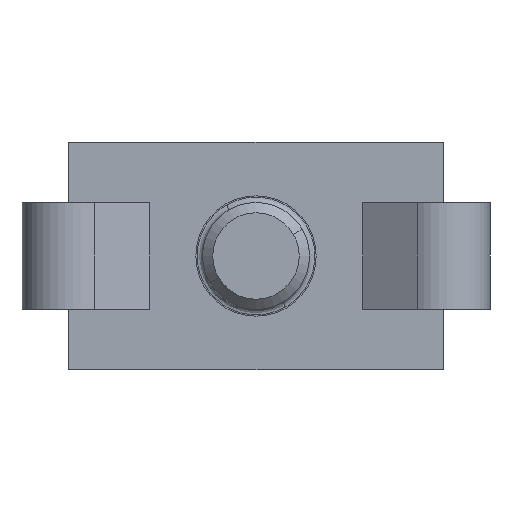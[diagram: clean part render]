
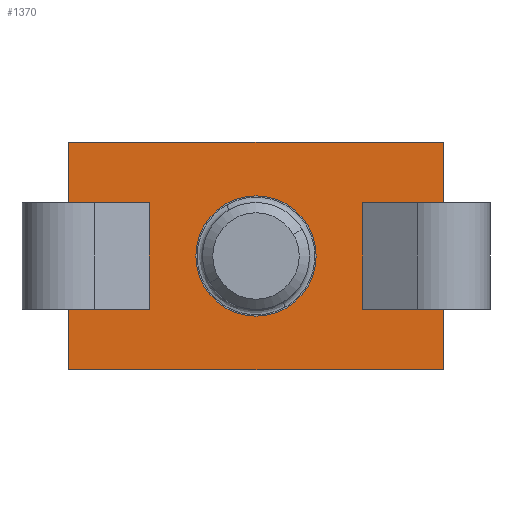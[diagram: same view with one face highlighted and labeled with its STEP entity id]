
A CAD part, left-side view. The second image highlights one B-rep face of the part: STEP entity #1370.
In plain terms, the highlighted planar face has unit normal (-1, 0, 0).
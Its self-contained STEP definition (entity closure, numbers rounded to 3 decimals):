
#43 = DIRECTION ( 'NONE',  ( 0., -1., 0. ) ) ;
#58 = FACE_BOUND ( 'NONE', #2455, .T. ) ;
#61 = FACE_OUTER_BOUND ( 'NONE', #322, .T. ) ;
#89 = ORIENTED_EDGE ( 'NONE', *, *, #2156, .F. ) ;
#113 = CARTESIAN_POINT ( 'NONE',  ( 4.5, -14., 39. ) ) ;
#142 = LINE ( 'NONE', #329, #2096 ) ;
#143 = CARTESIAN_POINT ( 'NONE',  ( 4.5, -14., 26.5 ) ) ;
#180 = VECTOR ( 'NONE', #897, 1000. ) ;
#187 = CARTESIAN_POINT ( 'NONE',  ( 4.5, 0., 43.5 ) ) ;
#310 = DIRECTION ( 'NONE',  ( 0., 0., 1. ) ) ;
#322 = EDGE_LOOP ( 'NONE', ( #516, #1138, #869, #1974, #1809, #2236, #89, #2377 ) ) ;
#329 = CARTESIAN_POINT ( 'NONE',  ( 4.5, 14., 35. ) ) ;
#427 = LINE ( 'NONE', #2490, #1530 ) ;
#437 = VECTOR ( 'NONE', #43, 1000. ) ;
#516 = ORIENTED_EDGE ( 'NONE', *, *, #2386, .F. ) ;
#527 = EDGE_CURVE ( 'NONE', #1173, #1779, #2464, .T. ) ;
#552 = EDGE_CURVE ( 'NONE', #1969, #1743, #2460, .T. ) ;
#559 = DIRECTION ( 'NONE',  ( 0., 0., 1. ) ) ;
#592 = CARTESIAN_POINT ( 'NONE',  ( 4.5, 14., 35. ) ) ;
#626 = VECTOR ( 'NONE', #825, 1000. ) ;
#684 = DIRECTION ( 'NONE',  ( 0., 0., -1. ) ) ;
#735 = LINE ( 'NONE', #187, #437 ) ;
#825 = DIRECTION ( 'NONE',  ( 0., 0., -1. ) ) ;
#841 = CARTESIAN_POINT ( 'NONE',  ( 4.5, -14., 43.5 ) ) ;
#846 = CARTESIAN_POINT ( 'NONE',  ( 4.5, -14., 35. ) ) ;
#869 = ORIENTED_EDGE ( 'NONE', *, *, #1433, .F. ) ;
#885 = CARTESIAN_POINT ( 'NONE',  ( 4.5, -14., 35. ) ) ;
#897 = DIRECTION ( 'NONE',  ( 0., 0., -1. ) ) ;
#903 = CIRCLE ( 'NONE', #1711, 4.5 ) ;
#906 = DIRECTION ( 'NONE',  ( 1., 0., 0. ) ) ;
#984 = CARTESIAN_POINT ( 'NONE',  ( 4.5, -14., 31. ) ) ;
#991 = EDGE_CURVE ( 'NONE', #1026, #1920, #427, .T. ) ;
#1001 = CARTESIAN_POINT ( 'NONE',  ( 4.5, 14., 31. ) ) ;
#1026 = VERTEX_POINT ( 'NONE', #143 ) ;
#1031 = ORIENTED_EDGE ( 'NONE', *, *, #552, .F. ) ;
#1038 = LINE ( 'NONE', #1455, #1262 ) ;
#1120 = CARTESIAN_POINT ( 'NONE',  ( 4.5, 0., 35. ) ) ;
#1123 = VECTOR ( 'NONE', #684, 1000. ) ;
#1138 = ORIENTED_EDGE ( 'NONE', *, *, #2257, .F. ) ;
#1154 = DIRECTION ( 'NONE',  ( 0., 1., 0. ) ) ;
#1157 = LINE ( 'NONE', #1821, #1123 ) ;
#1173 = VERTEX_POINT ( 'NONE', #1001 ) ;
#1183 = EDGE_CURVE ( 'NONE', #2187, #2410, #1157, .T. ) ;
#1245 = EDGE_CURVE ( 'NONE', #1743, #1969, #903, .T. ) ;
#1262 = VECTOR ( 'NONE', #1299, 1000. ) ;
#1299 = DIRECTION ( 'NONE',  ( 0., 0., 1. ) ) ;
#1370 = ADVANCED_FACE ( 'NONE', ( #58, #61 ), #2099, .F. ) ;
#1416 = ORIENTED_EDGE ( 'NONE', *, *, #1245, .F. ) ;
#1433 = EDGE_CURVE ( 'NONE', #1779, #1737, #1038, .T. ) ;
#1434 = AXIS2_PLACEMENT_3D ( 'NONE', #2483, #906, #1980 ) ;
#1455 = CARTESIAN_POINT ( 'NONE',  ( 4.5, 14., 35. ) ) ;
#1530 = VECTOR ( 'NONE', #1154, 1000. ) ;
#1569 = DIRECTION ( 'NONE',  ( -1., 0., 0. ) ) ;
#1633 = CARTESIAN_POINT ( 'NONE',  ( 4.5, 14., 39. ) ) ;
#1669 = LINE ( 'NONE', #846, #626 ) ;
#1686 = DIRECTION ( 'NONE',  ( -1., 0., 0. ) ) ;
#1711 = AXIS2_PLACEMENT_3D ( 'NONE', #2357, #1686, #2245 ) ;
#1737 = VERTEX_POINT ( 'NONE', #2087 ) ;
#1743 = VERTEX_POINT ( 'NONE', #2053 ) ;
#1779 = VERTEX_POINT ( 'NONE', #1633 ) ;
#1809 = ORIENTED_EDGE ( 'NONE', *, *, #2160, .F. ) ;
#1821 = CARTESIAN_POINT ( 'NONE',  ( 4.5, -14., 35. ) ) ;
#1920 = VERTEX_POINT ( 'NONE', #2274 ) ;
#1960 = CARTESIAN_POINT ( 'NONE',  ( 4.5, -4.5, 35. ) ) ;
#1969 = VERTEX_POINT ( 'NONE', #1960 ) ;
#1974 = ORIENTED_EDGE ( 'NONE', *, *, #527, .F. ) ;
#1980 = DIRECTION ( 'NONE',  ( 0., 0., -1. ) ) ;
#2053 = CARTESIAN_POINT ( 'NONE',  ( 4.5, 4.5, 35. ) ) ;
#2087 = CARTESIAN_POINT ( 'NONE',  ( 4.5, 14., 43.5 ) ) ;
#2094 = LINE ( 'NONE', #885, #180 ) ;
#2096 = VECTOR ( 'NONE', #310, 1000. ) ;
#2099 = PLANE ( 'NONE',  #1434 ) ;
#2138 = AXIS2_PLACEMENT_3D ( 'NONE', #1120, #1569, #2241 ) ;
#2139 = VERTEX_POINT ( 'NONE', #841 ) ;
#2156 = EDGE_CURVE ( 'NONE', #2410, #1026, #1669, .T. ) ;
#2160 = EDGE_CURVE ( 'NONE', #1920, #1173, #142, .T. ) ;
#2187 = VERTEX_POINT ( 'NONE', #113 ) ;
#2236 = ORIENTED_EDGE ( 'NONE', *, *, #991, .F. ) ;
#2241 = DIRECTION ( 'NONE',  ( 0., -1., 0. ) ) ;
#2245 = DIRECTION ( 'NONE',  ( 0., -1., 0. ) ) ;
#2257 = EDGE_CURVE ( 'NONE', #1737, #2139, #735, .T. ) ;
#2274 = CARTESIAN_POINT ( 'NONE',  ( 4.5, 14., 26.5 ) ) ;
#2357 = CARTESIAN_POINT ( 'NONE',  ( 4.5, 0., 35. ) ) ;
#2377 = ORIENTED_EDGE ( 'NONE', *, *, #1183, .F. ) ;
#2386 = EDGE_CURVE ( 'NONE', #2139, #2187, #2094, .T. ) ;
#2410 = VERTEX_POINT ( 'NONE', #984 ) ;
#2455 = EDGE_LOOP ( 'NONE', ( #1031, #1416 ) ) ;
#2460 = CIRCLE ( 'NONE', #2138, 4.5 ) ;
#2464 = LINE ( 'NONE', #592, #2468 ) ;
#2468 = VECTOR ( 'NONE', #559, 1000. ) ;
#2483 = CARTESIAN_POINT ( 'NONE',  ( 4.5, 0., 35. ) ) ;
#2490 = CARTESIAN_POINT ( 'NONE',  ( 4.5, 0., 26.5 ) ) ;
